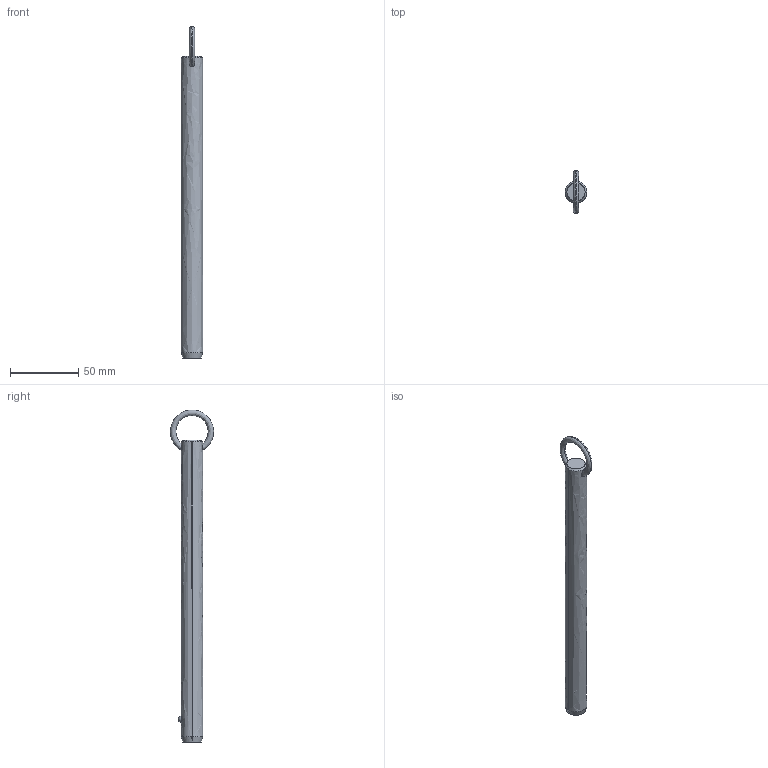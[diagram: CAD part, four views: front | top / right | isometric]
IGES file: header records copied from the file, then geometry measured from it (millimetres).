
Start section: SolidWorks IGES file using analytic representation for surfaces
Global section: file name: C:\Users\liam_\OneDrive\Documents\WORK\Work for WixRoyd\Job Files\J-00019 - Matt Davis CAD Checking\04. CAD Drawings\automotion20190605\P1250.2_v2\P1250.2_v2_20190729_IGES\P1250.062-760.igs; native system: SolidWorks 2017; preprocessor: SolidWorks 2017; author: liam_; date: 190729.234524; units: millimetre
Bounding box: 15.8 x 31.69 x 243.7 mm (x, y, z)
Surface area: 12168.5 mm2 (no closed solid volume)
Topology: 0 solids, 0 shells, 12 faces, 292 edges, 290 vertices
Faces by surface type: revolution 8, bspline 4
